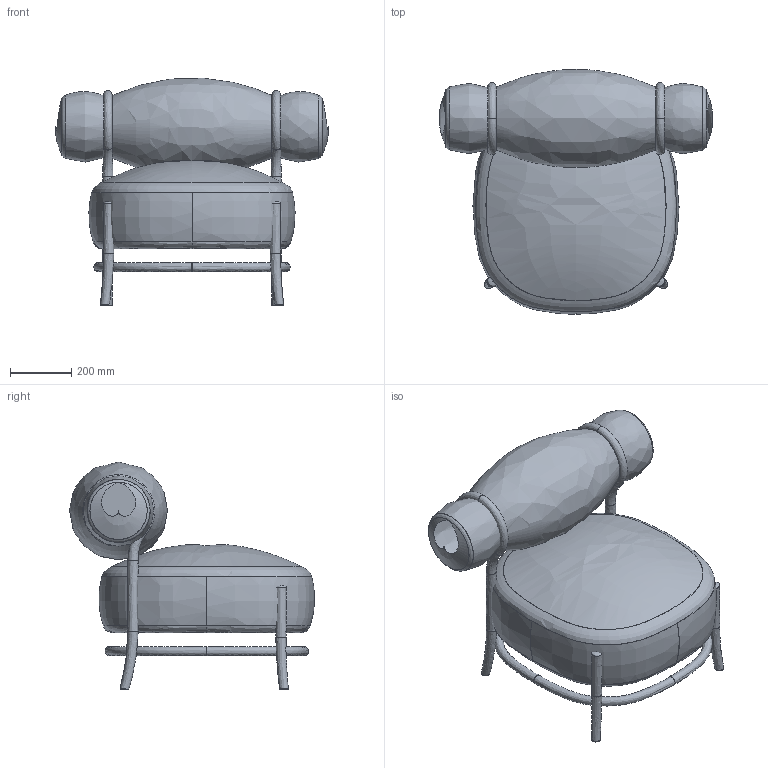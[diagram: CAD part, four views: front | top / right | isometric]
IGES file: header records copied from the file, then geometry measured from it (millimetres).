
Start section:  Autodesk DirectConnect version 8.0.56.1 ---- IGES version 5.3
Global section: file name: \\192.168.4.99\ufficio_tecnico\3d per sito\chignon\chignon.igs; native system: Rhinoceros ( Aug 10 2015 ); preprocessor: Trout Lake IGES 012 Aug 10 2015; date: 170609.083640; units: millimetre
Bounding box: 894.08 x 799.85 x 743.84 mm (x, y, z)
Surface area: 2802027.5 mm2 (no closed solid volume)
Topology: 0 solids, 0 shells, 59 faces, 1128 edges, 1088 vertices
Faces by surface type: bspline 59
